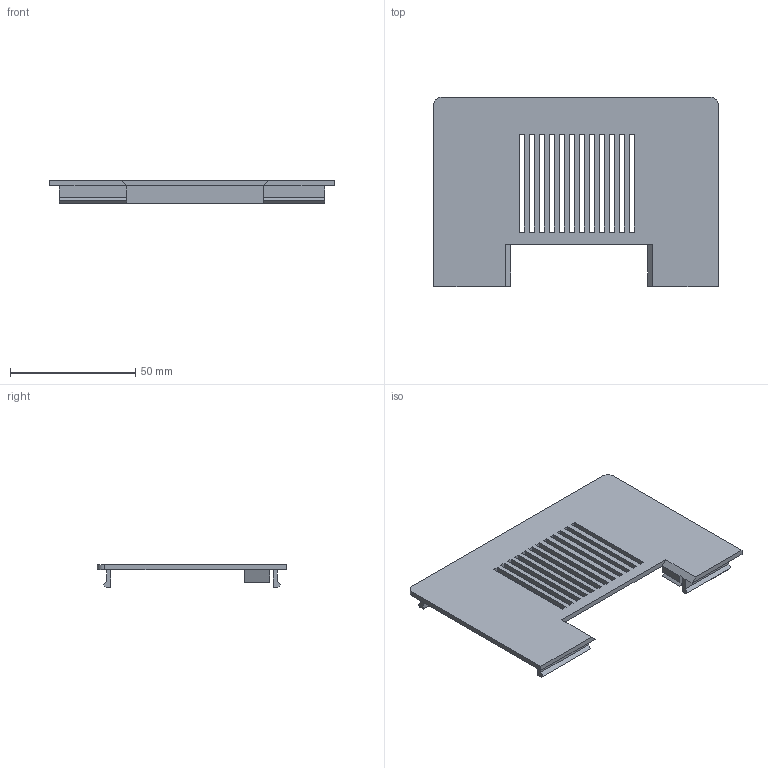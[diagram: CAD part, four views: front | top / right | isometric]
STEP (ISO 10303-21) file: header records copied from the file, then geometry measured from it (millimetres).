
FILE_DESCRIPTION(('STEP AP242 Edition 2','STEP AP242 Edition 2''CAx-IF Rec.Pracs.---Representation and Presentation of Product Manufacturing Information (PMI)---4.0---2014-10-13','STEP AP242 Edition 2''CAx-IF Rec.Pracs.---Representation and Presentation of Product Manufacturing Information (PMI)---4.0---2014-10-13''CAx-IF Rec.Pracs.---3D Tessellated Geometry---0.4---2014-09-14','STEP AP242 Edition 2''CAx-IF Rec.Pracs.---Representation and Presentation of Product Manufacturing Information (PMI)---4.0---2014-10-13''CAx-IF Rec.Pracs.---3D Tessellated Geometry---0.4---2014-09-14''2;1','STEP AP242 Edition 2''CAx-IF Rec.Pracs.---Representation and Presentation of Product Manufacturing Information (PMI)---4.0---2014-10-13''CAx-IF Rec.Pracs.---3D Tessellated Geometry---0.4---2014-09-14''2;1''CAx-IF Rec.Pracs.---User Defined Attributes---1.5---2016-08-15'),'2;1');
FILE_NAME('/vol/tmp/translate-371612670479758043/Case - Case Top Back.step','2026-03-18T15:31:30',(''),(''),'ST-DEVELOPER v20','ONSHAPE BY PTC INC, 1.212',' ');
FILE_SCHEMA(('AP242_MANAGED_MODEL_BASED_3D_ENGINEERING_MIM_LF { 1 0 10303 442 3 1 4 }'));
Length unit declared in the file: metre
Products named in the file (1): Case Top Back
Bounding box: 113.7 x 75.7 x 9 mm (x, y, z)
Volume: 15722.1 mm3; surface area: 18954.2 mm2
Topology: 1 solids, 1 shells, 95 faces, 266 edges, 174 vertices
Faces by surface type: plane 93, cylinder 2
Entity records: 3054 total; most frequent: CARTESIAN_POINT 536, ORIENTED_EDGE 532, DIRECTION 462, EDGE_CURVE 266, LINE 262, VECTOR 262, VERTEX_POINT 174, EDGE_LOOP 120
